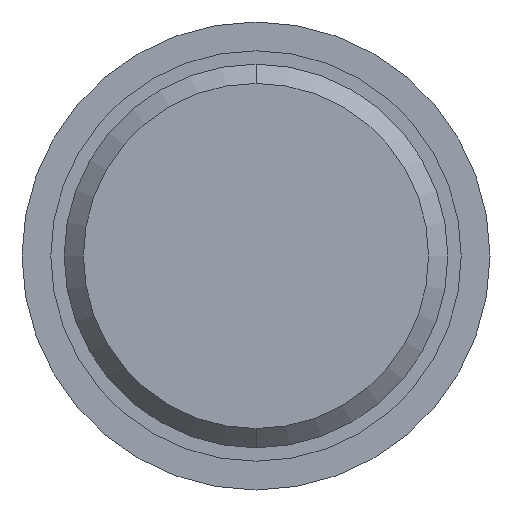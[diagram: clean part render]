
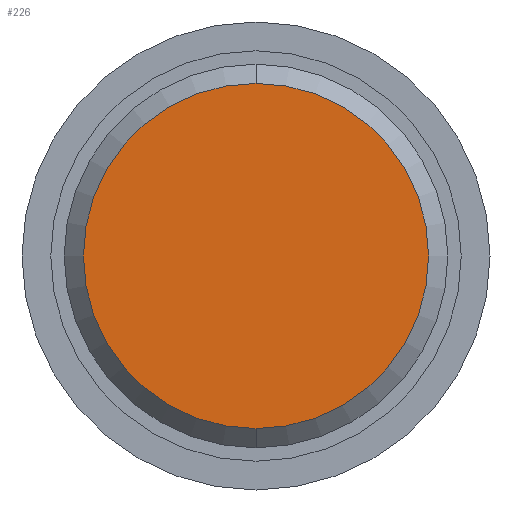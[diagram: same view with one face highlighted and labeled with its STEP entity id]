
A CAD part, front view. The second image highlights one B-rep face of the part: STEP entity #226.
In plain terms, the highlighted planar face has unit normal (0, -1, 0).
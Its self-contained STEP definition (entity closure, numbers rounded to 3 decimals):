
#9=CARTESIAN_POINT('',(0.,0.,0.));
#10=DIRECTION('',(0.,1.,0.));
#11=DIRECTION('',(0.,0.,-1.));
#12=AXIS2_PLACEMENT_3D('',#9,#10,#11);
#14=CARTESIAN_POINT('',(0.,0.,0.));
#15=DIRECTION('',(0.,-1.,0.));
#16=DIRECTION('',(0.,0.,-1.));
#17=AXIS2_PLACEMENT_3D('',#14,#15,#16);
#169=CARTESIAN_POINT('',(0.,0.,-0.9));
#171=VERTEX_POINT('',#169);
#193=CARTESIAN_POINT('',(0.,0.,0.9));
#195=VERTEX_POINT('',#193);
#215=CARTESIAN_POINT('',(0.,0.,0.));
#216=DIRECTION('',(0.,-1.,0.));
#217=DIRECTION('',(0.,0.,1.));
#218=AXIS2_PLACEMENT_3D('',#215,#216,#217);
#219=PLANE('',#218);
#221=ORIENTED_EDGE('',*,*,#220,.T.);
#223=ORIENTED_EDGE('',*,*,#222,.F.);
#224=EDGE_LOOP('',(#221,#223));
#225=FACE_OUTER_BOUND('',#224,.F.);
#226=ADVANCED_FACE('',(#225),#219,.T.);
#13=CIRCLE('',#12,0.9);
#18=CIRCLE('',#17,0.9);
#220=EDGE_CURVE('',#171,#195,#13,.T.);
#222=EDGE_CURVE('',#171,#195,#18,.T.);
